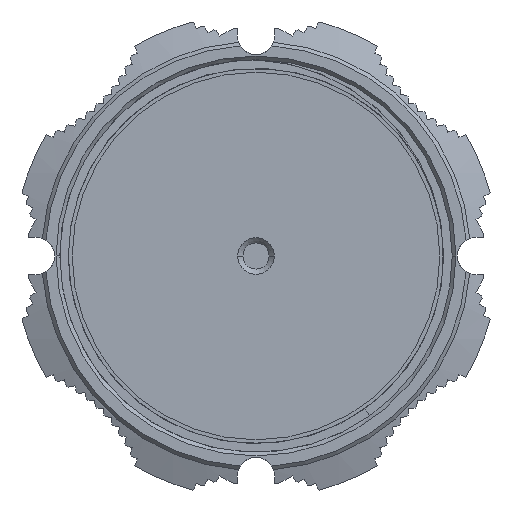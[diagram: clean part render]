
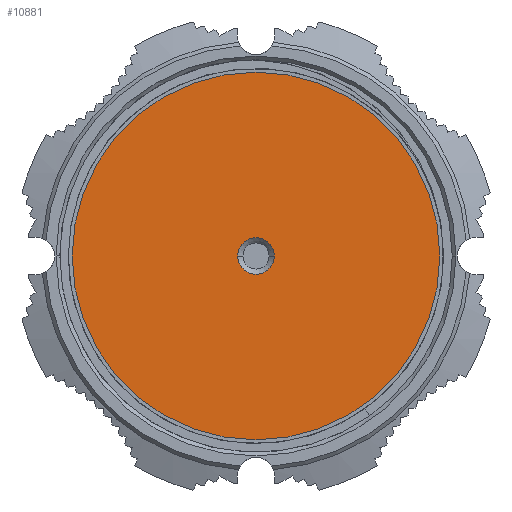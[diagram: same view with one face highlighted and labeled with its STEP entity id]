
A CAD part, left-side view. The second image highlights one B-rep face of the part: STEP entity #10881.
In plain terms, the highlighted planar face has unit normal (-1, 0, 0).
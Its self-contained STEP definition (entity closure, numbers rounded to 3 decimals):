
#37=CARTESIAN_POINT('',(36.7,0.,0.));
#38=DIRECTION('',(1.,0.,0.));
#39=DIRECTION('',(0.,1.,0.));
#40=AXIS2_PLACEMENT_3D('',#37,#38,#39);
#42=CARTESIAN_POINT('',(36.7,0.,0.));
#43=DIRECTION('',(1.,0.,0.));
#44=DIRECTION('',(0.,-1.,0.));
#45=AXIS2_PLACEMENT_3D('',#42,#43,#44);
#47=CARTESIAN_POINT('',(36.7,0.,0.));
#48=DIRECTION('',(-1.,0.,0.));
#49=DIRECTION('',(0.,-1.,0.));
#50=AXIS2_PLACEMENT_3D('',#47,#48,#49);
#52=CARTESIAN_POINT('',(36.7,0.,0.));
#53=DIRECTION('',(-1.,0.,0.));
#54=DIRECTION('',(0.,1.,0.));
#55=AXIS2_PLACEMENT_3D('',#52,#53,#54);
#10026=CARTESIAN_POINT('',(36.7,2.45,0.));
#10028=VERTEX_POINT('',#10026);
#10032=CARTESIAN_POINT('',(36.7,-2.45,0.));
#10033=VERTEX_POINT('',#10032);
#10034=CARTESIAN_POINT('',(36.7,26.3,0.));
#10035=CARTESIAN_POINT('',(36.7,-26.3,0.));
#10036=VERTEX_POINT('',#10034);
#10037=VERTEX_POINT('',#10035);
#10866=CARTESIAN_POINT('',(36.7,0.,0.));
#10867=DIRECTION('',(1.,0.,0.));
#10868=DIRECTION('',(0.,-1.,0.));
#10869=AXIS2_PLACEMENT_3D('',#10866,#10867,#10868);
#10870=PLANE('',#10869);
#10872=ORIENTED_EDGE('',*,*,#10871,.T.);
#10874=ORIENTED_EDGE('',*,*,#10873,.T.);
#10875=EDGE_LOOP('',(#10872,#10874));
#10876=FACE_OUTER_BOUND('',#10875,.F.);
#10877=ORIENTED_EDGE('',*,*,#10845,.T.);
#10878=ORIENTED_EDGE('',*,*,#10861,.T.);
#10879=EDGE_LOOP('',(#10877,#10878));
#10880=FACE_BOUND('',#10879,.F.);
#10881=ADVANCED_FACE('',(#10876,#10880),#10870,.F.);
#41=CIRCLE('',#40,26.3);
#46=CIRCLE('',#45,26.3);
#51=CIRCLE('',#50,2.45);
#56=CIRCLE('',#55,2.45);
#10845=EDGE_CURVE('',#10033,#10028,#51,.T.);
#10861=EDGE_CURVE('',#10028,#10033,#56,.T.);
#10871=EDGE_CURVE('',#10036,#10037,#41,.T.);
#10873=EDGE_CURVE('',#10037,#10036,#46,.T.);
